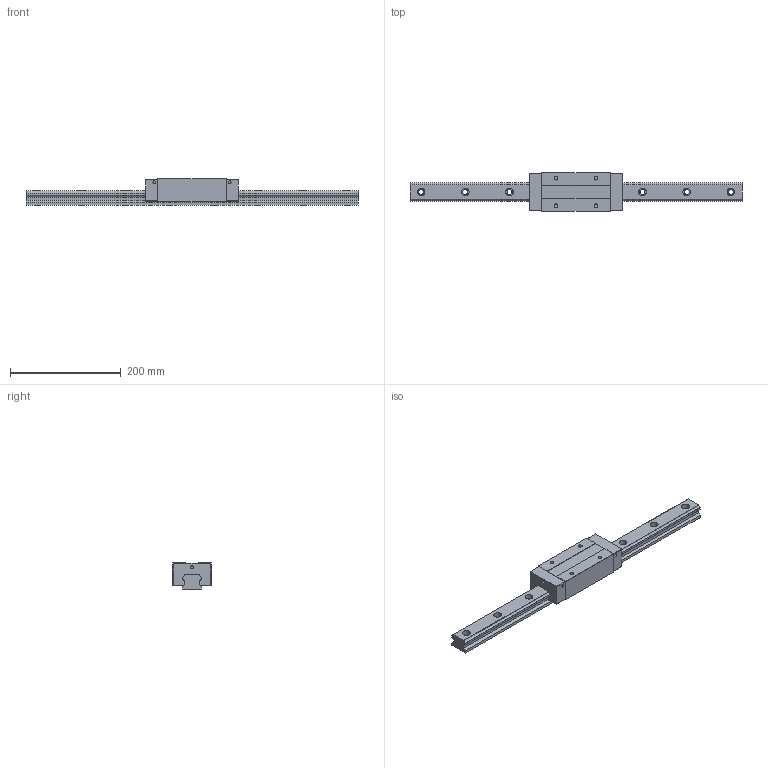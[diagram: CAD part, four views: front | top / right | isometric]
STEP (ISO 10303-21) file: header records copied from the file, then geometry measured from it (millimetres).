
FILE_DESCRIPTION (( 'STEP AP203' ), '1' );
FILE_NAME ('TRS35VE-SZ.STEP', '2024-07-11T08:42:08', ( '' ), ( '' ), 'SwSTEP 2.0', 'SolidWorks 2022', '' );
FILE_SCHEMA (( 'CONFIG_CONTROL_DESIGN' ));
Length unit declared in the file: millimetre
Products named in the file (1): TRS35VE-SZ
Bounding box: 600 x 70 x 48 mm (x, y, z)
Volume: 819141.3 mm3; surface area: 132148 mm2
Topology: 2 solids, 2 shells, 178 faces, 464 edges, 308 vertices
Faces by surface type: plane 90, cylinder 88
Entity records: 5619 total; most frequent: DIRECTION 998, CARTESIAN_POINT 951, ORIENTED_EDGE 928, EDGE_CURVE 464, AXIS2_PLACEMENT_3D 355, VERTEX_POINT 308, VECTOR 288, LINE 288
